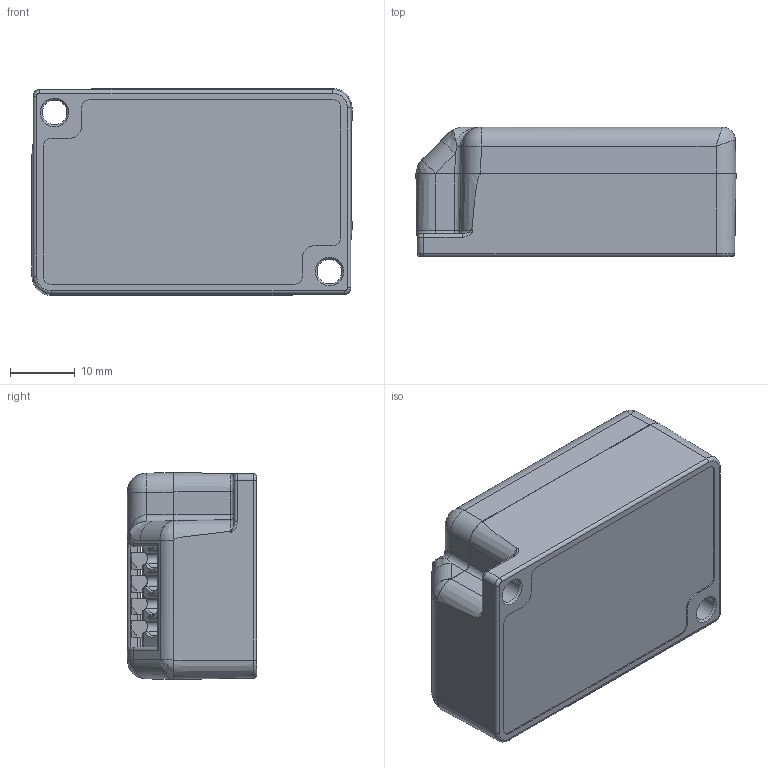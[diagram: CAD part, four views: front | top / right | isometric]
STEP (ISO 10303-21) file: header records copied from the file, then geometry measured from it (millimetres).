
FILE_DESCRIPTION (( 'STEP AP214' ), '1' );
FILE_NAME ('Wired Control Module.STEP', '2020-09-06T22:59:46', ( '' ), ( '' ), 'SwSTEP 2.0', 'SolidWorks 2020', '' );
FILE_SCHEMA (( 'AUTOMOTIVE_DESIGN' ));
Length unit declared in the file: millimetre
Products named in the file (1): Wired Control Module
Bounding box: 49.5 x 20 x 32 mm (x, y, z)
Surface area: 9892.1 mm2 (no closed solid volume)
Topology: 0 solids, 5 shells, 374 faces, 1334 edges, 936 vertices
Faces by surface type: plane 181, cylinder 114, bspline 34, cone 24, torus 17, sphere 4
Full cylindrical faces by diameter (mm): 0.46 x8, 3 x4, 3.797 x2
Entity records: 19806 total; most frequent: CARTESIAN_POINT 5221, ORIENTED_EDGE 2160, DIRECTION 1978, EDGE_CURVE 1306, VERTEX_POINT 928, VECTOR 818, LINE 818, AXIS2_PLACEMENT_3D 580
